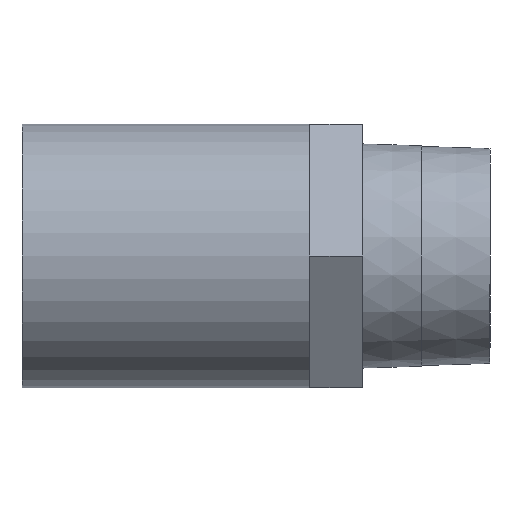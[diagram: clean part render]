
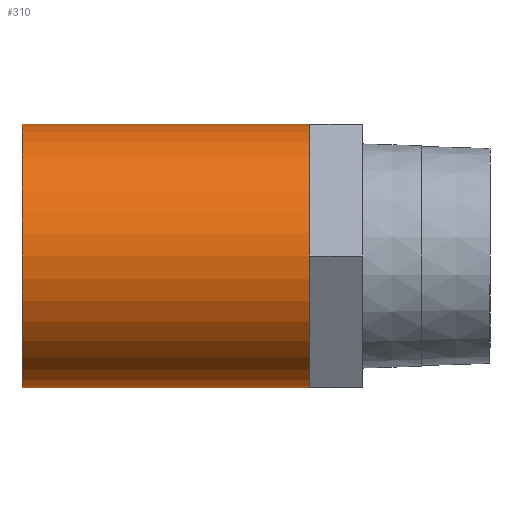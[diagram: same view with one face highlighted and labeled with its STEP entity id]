
A CAD part, front view. The second image highlights one B-rep face of the part: STEP entity #310.
In plain terms, the highlighted cylindrical face has radius 20 mm (diameter 40 mm), a full revolution.
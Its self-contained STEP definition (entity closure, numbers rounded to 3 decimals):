
#84=FACE_BOUND('',#120,.T.);
#97=FACE_OUTER_BOUND('',#119,.T.);
#119=EDGE_LOOP('',(#232));
#120=EDGE_LOOP('',(#233,#234,#235,#236,#237,#238));
#149=CIRCLE('',#340,20.);
#150=CIRCLE('',#341,20.);
#151=CIRCLE('',#342,20.);
#152=CIRCLE('',#343,20.);
#153=CIRCLE('',#344,20.);
#154=CIRCLE('',#345,20.);
#155=CIRCLE('',#346,20.);
#164=VERTEX_POINT('',#482);
#165=VERTEX_POINT('',#484);
#166=VERTEX_POINT('',#485);
#167=VERTEX_POINT('',#487);
#168=VERTEX_POINT('',#489);
#169=VERTEX_POINT('',#491);
#170=VERTEX_POINT('',#493);
#191=EDGE_CURVE('',#164,#164,#149,.T.);
#192=EDGE_CURVE('',#165,#166,#150,.T.);
#193=EDGE_CURVE('',#167,#165,#151,.T.);
#194=EDGE_CURVE('',#168,#167,#152,.T.);
#195=EDGE_CURVE('',#169,#168,#153,.T.);
#196=EDGE_CURVE('',#170,#169,#154,.T.);
#197=EDGE_CURVE('',#166,#170,#155,.T.);
#232=ORIENTED_EDGE('',*,*,#191,.F.);
#233=ORIENTED_EDGE('',*,*,#192,.F.);
#234=ORIENTED_EDGE('',*,*,#193,.F.);
#235=ORIENTED_EDGE('',*,*,#194,.F.);
#236=ORIENTED_EDGE('',*,*,#195,.F.);
#237=ORIENTED_EDGE('',*,*,#196,.F.);
#238=ORIENTED_EDGE('',*,*,#197,.F.);
#306=CYLINDRICAL_SURFACE('',#339,20.);
#310=ADVANCED_FACE('',(#97,#84),#306,.T.);
#339=AXIS2_PLACEMENT_3D('',#481,#385,#386);
#340=AXIS2_PLACEMENT_3D('',#483,#387,#388);
#341=AXIS2_PLACEMENT_3D('',#486,#389,#390);
#342=AXIS2_PLACEMENT_3D('',#488,#391,#392);
#343=AXIS2_PLACEMENT_3D('',#490,#393,#394);
#344=AXIS2_PLACEMENT_3D('',#492,#395,#396);
#345=AXIS2_PLACEMENT_3D('',#494,#397,#398);
#346=AXIS2_PLACEMENT_3D('',#495,#399,#400);
#385=DIRECTION('center_axis',(1.,0.,0.));
#386=DIRECTION('ref_axis',(0.,0.,1.));
#387=DIRECTION('center_axis',(-1.,0.,0.));
#388=DIRECTION('ref_axis',(0.,0.,1.));
#389=DIRECTION('center_axis',(1.,0.,0.));
#390=DIRECTION('ref_axis',(0.,0.,1.));
#391=DIRECTION('center_axis',(1.,0.,0.));
#392=DIRECTION('ref_axis',(0.,0.,1.));
#393=DIRECTION('center_axis',(1.,0.,0.));
#394=DIRECTION('ref_axis',(0.,0.,1.));
#395=DIRECTION('center_axis',(1.,0.,0.));
#396=DIRECTION('ref_axis',(0.,0.,1.));
#397=DIRECTION('center_axis',(1.,0.,0.));
#398=DIRECTION('ref_axis',(0.,0.,1.));
#399=DIRECTION('center_axis',(1.,0.,0.));
#400=DIRECTION('ref_axis',(0.,0.,1.));
#481=CARTESIAN_POINT('Origin',(-71.,0.,0.));
#482=CARTESIAN_POINT('',(-71.,0.,-20.));
#483=CARTESIAN_POINT('Origin',(-71.,0.,0.));
#484=CARTESIAN_POINT('',(-27.35,-17.321,10.));
#485=CARTESIAN_POINT('',(-27.35,-17.321,-10.));
#486=CARTESIAN_POINT('Origin',(-27.35,0.,0.));
#487=CARTESIAN_POINT('',(-27.35,0.,20.));
#488=CARTESIAN_POINT('Origin',(-27.35,0.,0.));
#489=CARTESIAN_POINT('',(-27.35,17.321,10.));
#490=CARTESIAN_POINT('Origin',(-27.35,0.,0.));
#491=CARTESIAN_POINT('',(-27.35,17.321,-10.));
#492=CARTESIAN_POINT('Origin',(-27.35,0.,0.));
#493=CARTESIAN_POINT('',(-27.35,0.,-20.));
#494=CARTESIAN_POINT('Origin',(-27.35,0.,0.));
#495=CARTESIAN_POINT('Origin',(-27.35,0.,0.));
